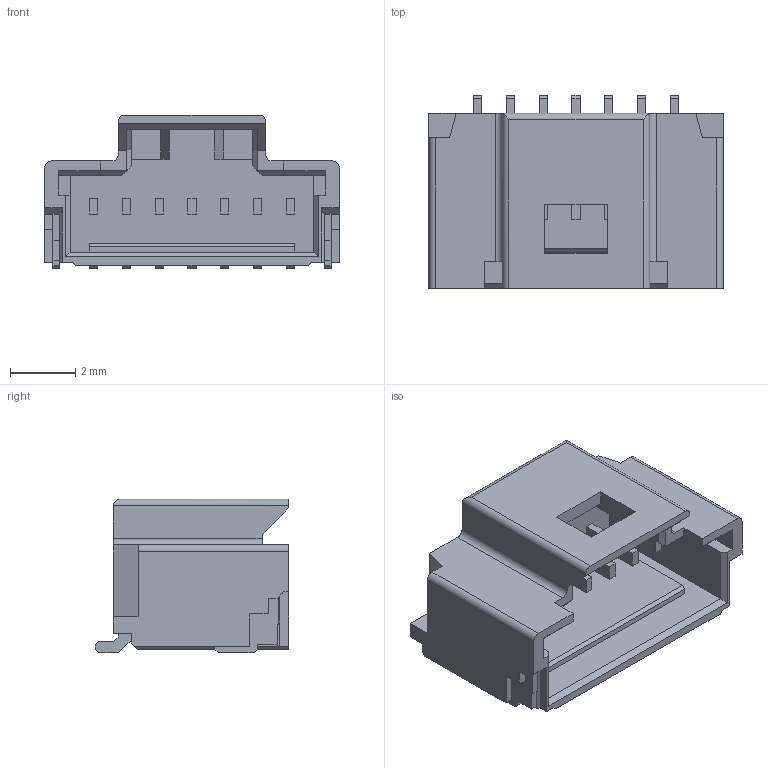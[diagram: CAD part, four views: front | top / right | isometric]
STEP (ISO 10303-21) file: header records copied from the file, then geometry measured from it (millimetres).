
FILE_DESCRIPTION(/* description */ (''),/* implementation_level */ '2;1');
FILE_NAME(/* name */ '5015680707wbm000_02_214.stp',/* time_stamp */ '2024-01-31T09:24:57+06:00',/* author */ (''),/* organization */ (''),/* preprocessor_version */ 'ST-DEVELOPER v16.7',/* originating_system */ 'SIEMENS PLM Software NX 1919',/* authorisation */ '');
FILE_SCHEMA (('AUTOMOTIVE_DESIGN { 1 0 10303 214 3 1 1 1 }'));
Length unit declared in the file: millimetre
Products named in the file (1): 5015680707wbm000_02
Bounding box: 9 x 5.9 x 4.7 mm (x, y, z)
Volume: 89.4 mm3; surface area: 336.8 mm2
Topology: 1 solids, 1 shells, 234 faces, 661 edges, 436 vertices
Faces by surface type: plane 227, cylinder 7
Entity records: 7433 total; most frequent: CARTESIAN_POINT 1332, ORIENTED_EDGE 1322, DIRECTION 1143, EDGE_CURVE 661, LINE 649, VECTOR 649, VERTEX_POINT 436, AXIS2_PLACEMENT_3D 247
